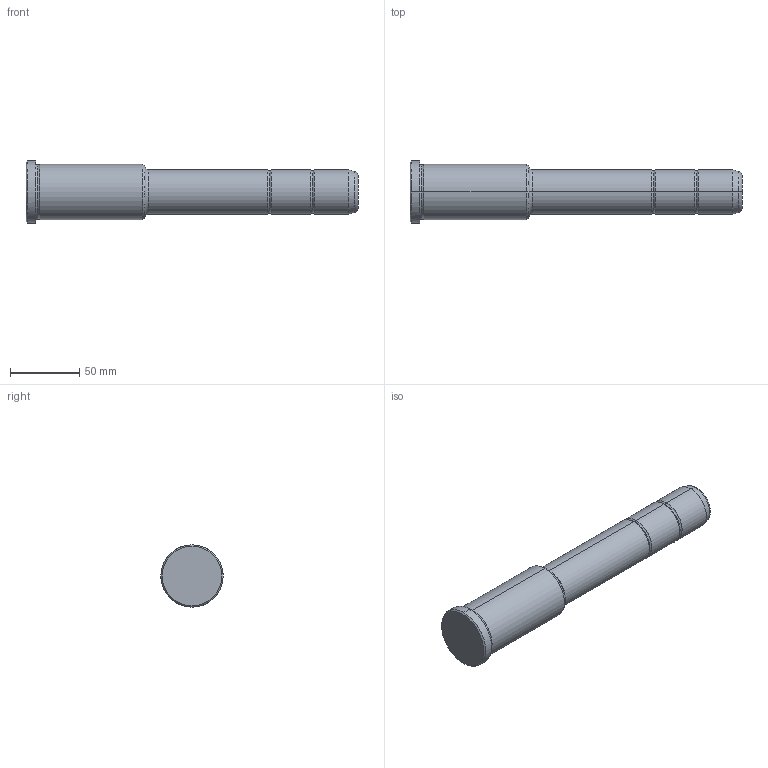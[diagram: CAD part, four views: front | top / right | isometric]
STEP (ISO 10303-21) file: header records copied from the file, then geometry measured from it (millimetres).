
FILE_DESCRIPTION(('CATIA V5 STEP Exchange'),'2;1');
FILE_NAME('C:\Users\Utente\Desktop\IO LAVORO\3D X SITO CF\X SITO\PLASTICA\351\351-32X86X240.stp','2021-09-10T12:24:51+00:00',('none'),('none'),'CATIA Version 5 Release 20 GA (IN-10)','CATIA V5 STEP AP203','none');
FILE_SCHEMA(('CONFIG_CONTROL_DESIGN'));
Length unit declared in the file: millimetre
Products named in the file (1): 351-32X86X240
Bounding box: 240 x 45 x 45 mm (x, y, z)
Volume: 233056.2 mm3; surface area: 29150.3 mm2
Topology: 1 solids, 1 shells, 36 faces, 102 edges, 70 vertices
Faces by surface type: torus 16, cylinder 10, cone 6, plane 4
Entity records: 1292 total; most frequent: CARTESIAN_POINT 321, ORIENTED_EDGE 204, DIRECTION 166, AXIS2_PLACEMENT_3D 115, EDGE_CURVE 102, CIRCLE 78, VERTEX_POINT 70, EDGE_LOOP 38
